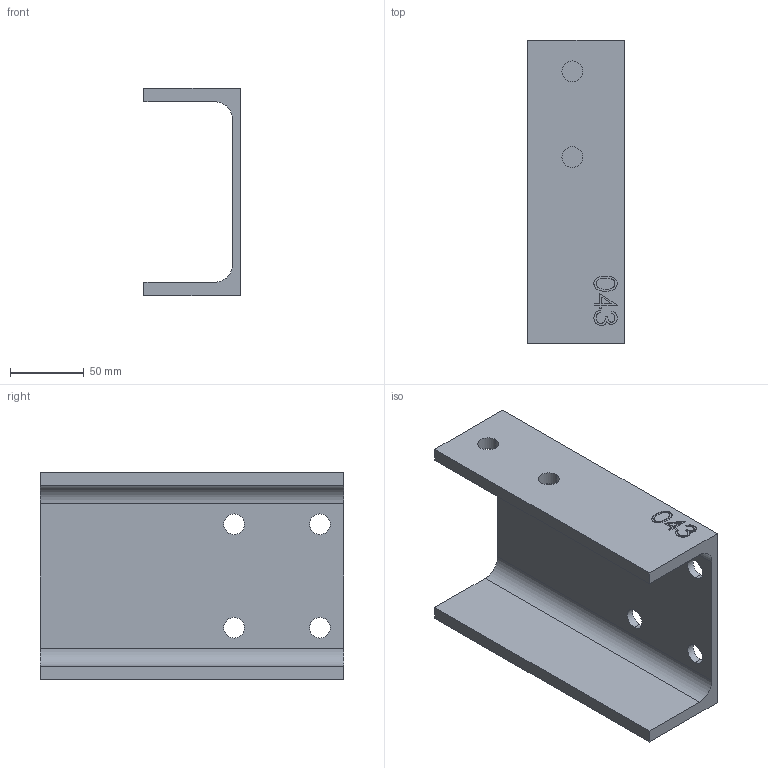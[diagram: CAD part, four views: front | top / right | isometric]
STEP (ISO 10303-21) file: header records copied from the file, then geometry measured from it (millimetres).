
FILE_DESCRIPTION (( 'STEP AP214' ), '1' );
FILE_NAME ('CCJ029-REP.043 - JONCTION PLANCHER INF.-POTEAU B5.STEP', '2024-01-10T14:37:48', ( '' ), ( '' ), 'SwSTEP 2.0', 'SolidWorks 2021', '' );
FILE_SCHEMA (( 'AUTOMOTIVE_DESIGN' ));
Length unit declared in the file: millimetre
Products named in the file (1): CCJ029-REP.043 - JONCTION PLANCHER INF.-POTEAU B5
Bounding box: 65 x 205 x 140 mm (x, y, z)
Volume: 371646 mm3; surface area: 110151.5 mm2
Topology: 1 solids, 1 shells, 68 faces, 183 edges, 122 vertices
Faces by surface type: plane 31, bspline 23, cylinder 14
Entity records: 3579 total; most frequent: CARTESIAN_POINT 1941, ORIENTED_EDGE 366, DIRECTION 257, EDGE_CURVE 183, VERTEX_POINT 122, VECTOR 109, LINE 109, EDGE_LOOP 85
